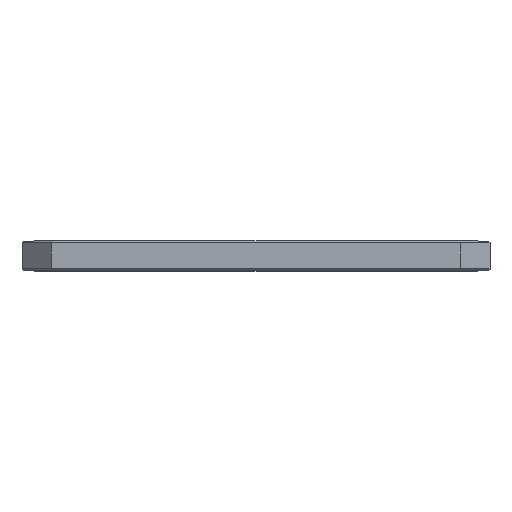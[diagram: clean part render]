
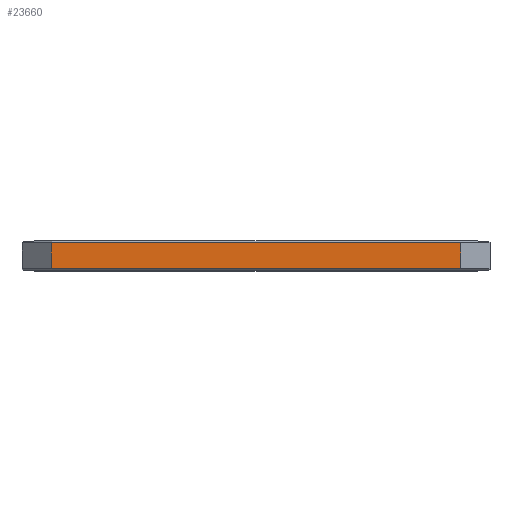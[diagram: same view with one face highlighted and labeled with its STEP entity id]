
A CAD part, top view. The second image highlights one B-rep face of the part: STEP entity #23660.
In plain terms, the highlighted planar face has unit normal (0, 0, 1).
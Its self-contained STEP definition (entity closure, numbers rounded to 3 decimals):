
#6221=DIRECTION('',(1.,0.,0.));
#6222=VECTOR('',#6221,700.);
#6223=CARTESIAN_POINT('',(-350.,22.,400.));
#6224=LINE('',#6223,#6222);
#6225=DIRECTION('',(0.,-1.,0.));
#6226=VECTOR('',#6225,44.);
#6227=CARTESIAN_POINT('',(350.,22.,400.));
#6228=LINE('',#6227,#6226);
#6229=DIRECTION('',(-1.,0.,0.));
#6230=VECTOR('',#6229,700.);
#6231=CARTESIAN_POINT('',(350.,-22.,400.));
#6232=LINE('',#6231,#6230);
#6233=DIRECTION('',(0.,-1.,0.));
#6234=VECTOR('',#6233,44.);
#6235=CARTESIAN_POINT('',(-350.,22.,400.));
#6236=LINE('',#6235,#6234);
#15261=CARTESIAN_POINT('',(-350.,22.,400.));
#15262=VERTEX_POINT('',#15261);
#15263=CARTESIAN_POINT('',(350.,22.,400.));
#15264=VERTEX_POINT('',#15263);
#15280=CARTESIAN_POINT('',(350.,-22.,400.));
#15282=VERTEX_POINT('',#15280);
#15283=CARTESIAN_POINT('',(-350.,-22.,400.));
#15284=VERTEX_POINT('',#15283);
#23646=CARTESIAN_POINT('',(-400.,-25.,400.));
#23647=DIRECTION('',(0.,0.,1.));
#23648=DIRECTION('',(1.,0.,0.));
#23649=AXIS2_PLACEMENT_3D('',#23646,#23647,#23648);
#23650=PLANE('',#23649);
#23652=ORIENTED_EDGE('',*,*,#23651,.T.);
#23654=ORIENTED_EDGE('',*,*,#23653,.T.);
#23655=ORIENTED_EDGE('',*,*,#23637,.T.);
#23657=ORIENTED_EDGE('',*,*,#23656,.F.);
#23658=EDGE_LOOP('',(#23652,#23654,#23655,#23657));
#23659=FACE_OUTER_BOUND('',#23658,.F.);
#23660=ADVANCED_FACE('',(#23659),#23650,.T.);
#23637=EDGE_CURVE('',#15282,#15284,#6232,.T.);
#23651=EDGE_CURVE('',#15262,#15264,#6224,.T.);
#23653=EDGE_CURVE('',#15264,#15282,#6228,.T.);
#23656=EDGE_CURVE('',#15262,#15284,#6236,.T.);
